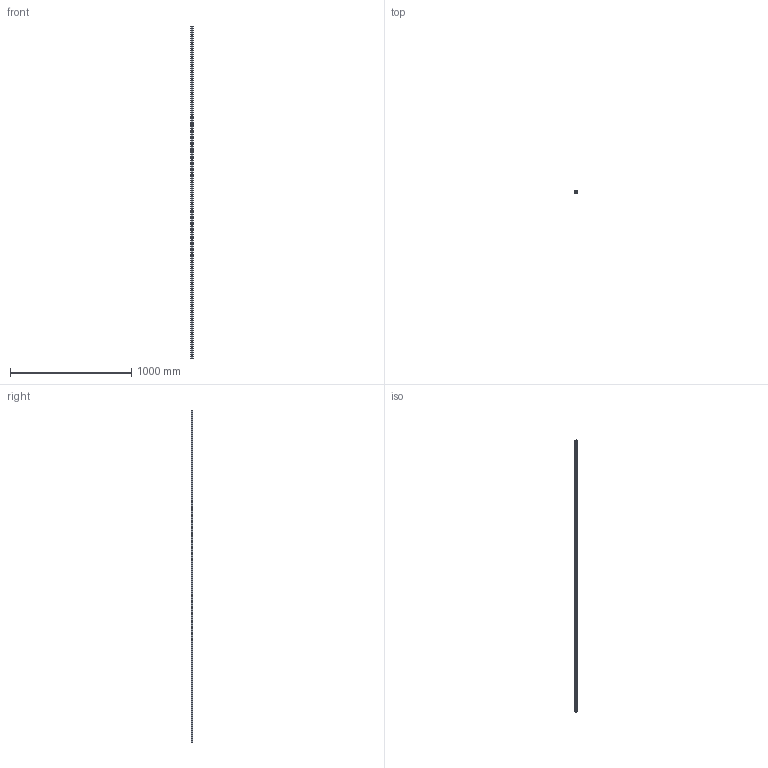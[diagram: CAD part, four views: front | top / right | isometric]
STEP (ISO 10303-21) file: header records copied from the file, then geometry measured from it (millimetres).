
FILE_DESCRIPTION (( 'STEP AP203' ), '1' );
FILE_NAME ('L1016.BL20-2740.step', '2019-06-12T11:54:11', ( '' ), ( '' ), 'SwSTEP 2.0', 'SolidWorks 2017', '' );
FILE_SCHEMA (( 'CONFIG_CONTROL_DESIGN' ));
Length unit declared in the file: millimetre
Products named in the file (1): L1016.BL20-2740
Bounding box: 20 x 16.3 x 2740 mm (x, y, z)
Volume: 761625.5 mm3; surface area: 220441.9 mm2
Topology: 1 solids, 1 shells, 256 faces, 624 edges, 416 vertices
Faces by surface type: cylinder 188, plane 68
Entity records: 7985 total; most frequent: DIRECTION 1514, CARTESIAN_POINT 1297, ORIENTED_EDGE 1248, AXIS2_PLACEMENT_3D 633, EDGE_CURVE 624, VERTEX_POINT 416, EDGE_LOOP 394, CIRCLE 376
